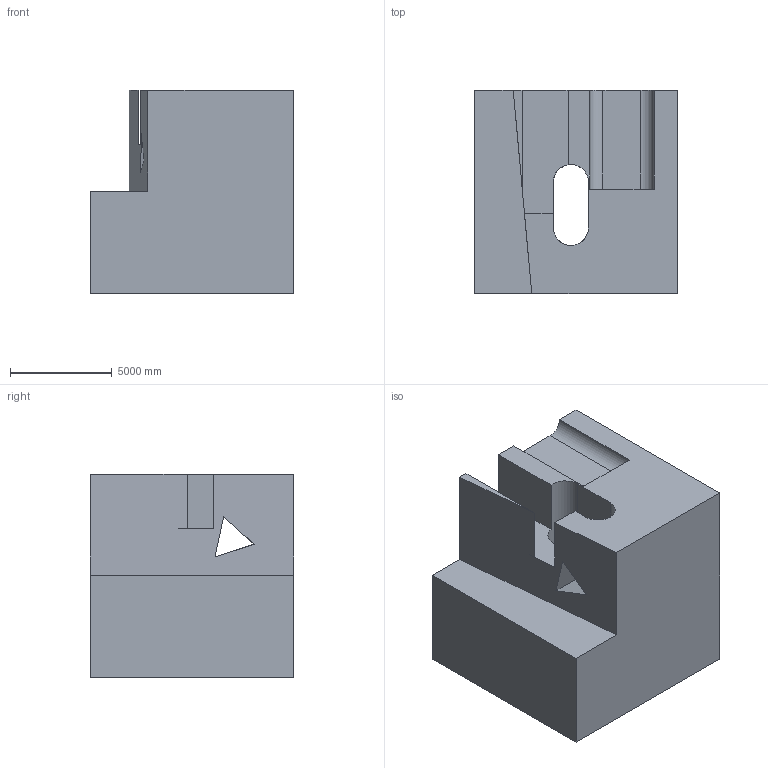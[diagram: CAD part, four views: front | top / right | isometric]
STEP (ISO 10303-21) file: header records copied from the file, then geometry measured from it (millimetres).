
FILE_DESCRIPTION (( 'STEP AP203' ), '1' );
FILE_NAME ('425.STEP', '2022-07-29T11:13:46', ( 'user' ), ( '' ), 'SwSTEP 2.0', 'SolidWorks 2021', '' );
FILE_SCHEMA (( 'CONFIG_CONTROL_DESIGN' ));
Length unit declared in the file: centimetre
Products named in the file (1): 425
Bounding box: 10000 x 10000 x 10000 mm (x, y, z)
Volume: 768585238878.1 mm3; surface area: 706462524.2 mm2
Topology: 1 solids, 1 shells, 26 faces, 81 edges, 54 vertices
Faces by surface type: plane 21, cylinder 5
Entity records: 983 total; most frequent: CARTESIAN_POINT 168, ORIENTED_EDGE 162, DIRECTION 142, EDGE_CURVE 81, LINE 70, VECTOR 70, VERTEX_POINT 54, AXIS2_PLACEMENT_3D 36
